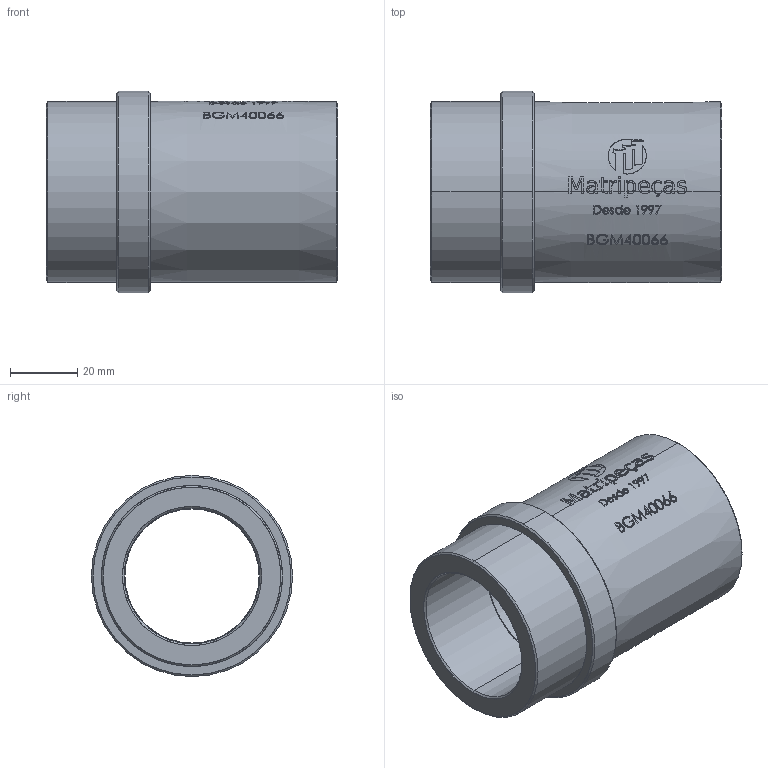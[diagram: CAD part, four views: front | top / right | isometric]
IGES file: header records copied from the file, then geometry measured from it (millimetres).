
Start section: SolidWorks IGES file using analytic representation for surfaces
Global section: file name: E:\1.TRIVECTOR\Clientes\MATRIPEÇAS\PEÇAS_CATALOGO_SITE\2.BGM - BUCHA GUIA E31 (CATÁLOGO)\BGM40066.IGS; native system: SolidWorks 2024; preprocessor: SolidWorks 2024; author: Gabriel Techio; date: 260828.091050; units: millimetre
Bounding box: 87 x 60 x 60 mm (x, y, z)
Surface area: 28831.9 mm2 (no closed solid volume)
Topology: 0 solids, 0 shells, 455 faces, 5707 edges, 5707 vertices
Faces by surface type: bspline 368, revolution 87
